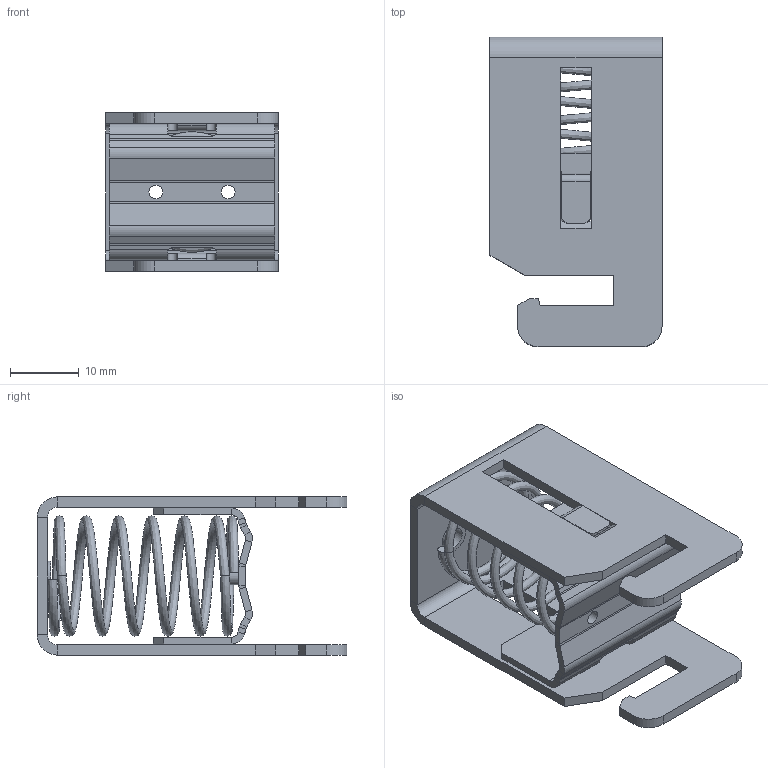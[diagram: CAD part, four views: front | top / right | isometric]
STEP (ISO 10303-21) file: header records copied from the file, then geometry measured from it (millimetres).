
FILE_DESCRIPTION(('STEP AP203'), '1');
FILE_NAME('ÝÌÑ-çàæèì 10-20 ìì (ñâîáîäíîå ïîëîæåíèå)', '2021-04-20T06:36:52', (''), (''), 'ASCON STEP Converter 1.6', 'ASCON Math Kernel', '');
FILE_SCHEMA(('CONFIG_CONTROL_DESIGN'));
Length unit declared in the file: millimetre
Products named in the file (1): ?ﾋﾖﾈ.687222.085
Bounding box: 25 x 45 x 23 mm (x, y, z)
Volume: 4840.7 mm3; surface area: 8896.3 mm2
Topology: 2 solids, 2 shells, 449 faces, 1194 edges, 754 vertices
Faces by surface type: plane 232, cylinder 210, bspline 7
Full cylindrical faces by diameter (mm): 2 x2, 2.6 x2, 3 x2, 4.3 x2
Entity records: 19093 total; most frequent: CARTESIAN_POINT 7623, DIRECTION 2473, ORIENTED_EDGE 2366, EDGE_CURVE 1183, AXIS2_PLACEMENT_3D 863, VERTEX_POINT 754, LINE 747, VECTOR 747
